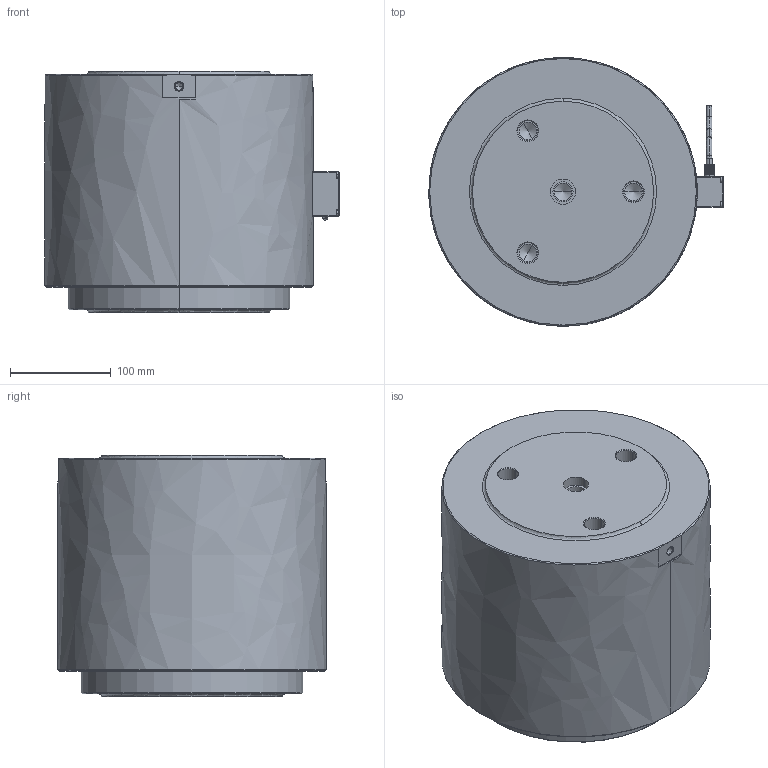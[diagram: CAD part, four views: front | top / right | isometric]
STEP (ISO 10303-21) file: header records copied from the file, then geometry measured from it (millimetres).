
FILE_DESCRIPTION((''),'2;1');
FILE_NAME('C6B_10MN','2018-06-11T',('esche'),(''),'CREO PARAMETRIC BY PTC INC, 2017170','CREO PARAMETRIC BY PTC INC, 2017170','');
FILE_SCHEMA(('CONFIG_CONTROL_DESIGN'));
Length unit declared in the file: millimetre
Products named in the file (1): C6B_10MN
Bounding box: 292.8 x 267 x 240 mm (x, y, z)
Volume: 12779699.4 mm3; surface area: 333408.7 mm2
Topology: 1 solids, 1 shells, 289 faces, 658 edges, 386 vertices
Faces by surface type: bspline 289
Entity records: 12597 total; most frequent: CARTESIAN_POINT 6494, ORIENTED_EDGE 1276, DIRECTION 892, EDGE_CURVE 638, VERTEX_POINT 386, VECTOR 332, LINE 332, EDGE_LOOP 324
